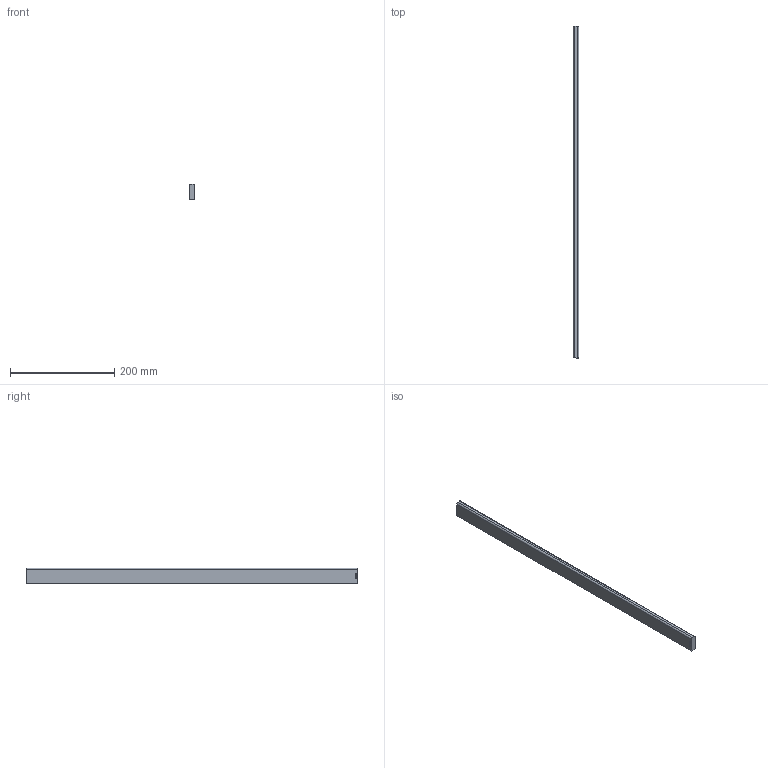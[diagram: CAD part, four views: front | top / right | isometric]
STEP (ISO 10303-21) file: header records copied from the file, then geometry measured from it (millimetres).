
FILE_DESCRIPTION (( 'STEP AP214' ), '1' );
FILE_NAME ('_Seitenreling_S760605500_RL635,5.step', '2010-09-06T14:51:29', ( 'grass' ), ( '' ), 'SwSTEP 2.0', 'SolidWorks 2010', '' );
FILE_SCHEMA (( 'AUTOMOTIVE_DESIGN' ));
Length unit declared in the file: millimetre
Products named in the file (1): _Seitenreling_S760605500_RL635,5
Bounding box: 10.5 x 635.5 x 30 mm (x, y, z)
Volume: 197489 mm3; surface area: 50673.4 mm2
Topology: 1 solids, 1 shells, 12 faces, 30 edges, 20 vertices
Faces by surface type: plane 8, cylinder 4
Entity records: 400 total; most frequent: DIRECTION 64, CARTESIAN_POINT 63, ORIENTED_EDGE 60, EDGE_CURVE 30, VECTOR 22, LINE 22, AXIS2_PLACEMENT_3D 21, VERTEX_POINT 20
